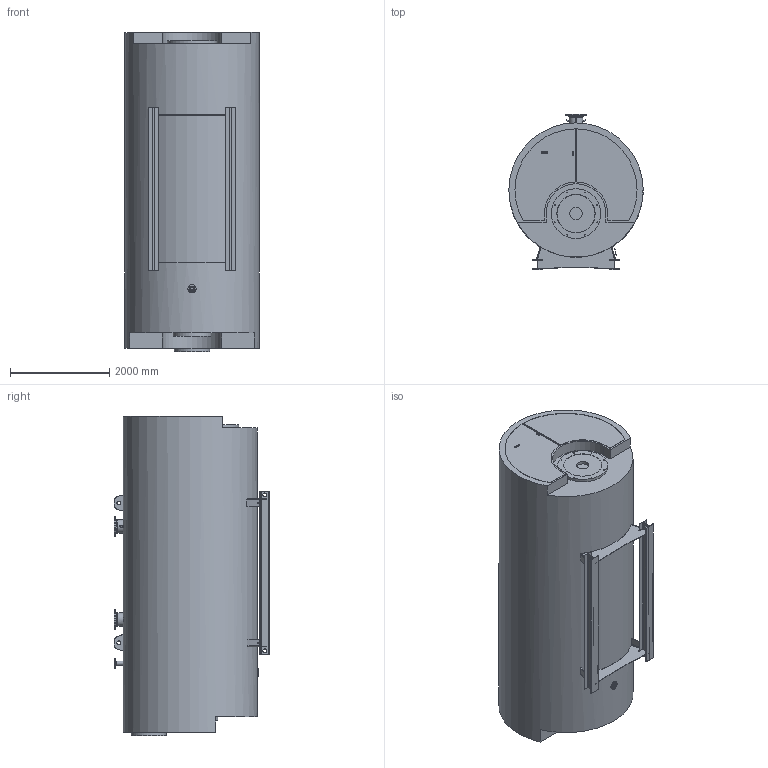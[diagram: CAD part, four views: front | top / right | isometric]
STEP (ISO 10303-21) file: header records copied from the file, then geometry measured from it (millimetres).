
FILE_DESCRIPTION(('TFLEX Exchange Step'),'2;1');
FILE_NAME('M62D028_7550663_H001.stp', '2024-08-09T13:50:49+03:00',('kort'),('Unknown organisation'),'TFLEX Exchange 2024.2','T-FLEX CAD','Unknown authorisation');
FILE_SCHEMA( ('AP242_MANAGED_MODEL_BASED_3D_ENGINEERING_MIM_LF {1 0 10303 442 1 1 4 }') );
Length unit declared in the file: millimetre
Products named in the file (1): 7550663_Grundkessel M62D028_H001
Bounding box: 2703.78 x 3130 x 6434.2 mm (x, y, z)
Volume: 35443696314.4 mm3; surface area: 77610579.6 mm2
Topology: 36 solids, 36 shells, 606 faces, 1594 edges, 1104 vertices
Faces by surface type: plane 343, cylinder 163, bspline 78, torus 14, cone 8
Full cylindrical faces by diameter (mm): 2.2 x4, 3.2 x4, 3.3 x4, 4 x4, 6.5 x4, 13 x4, 14 x8, 18 x16, 18.63 x2, 26 x24, 26.9 x2, 28.9 x2, 54.5 x2, 78.9 x1, 80 x6, 82.5 x1, 88.9 x1, 102 x2, 138 x1, 141 x1, 165 x2, 200 x1, 250 x1, 257 x2, 260.4 x2, 273 x2, 320 x2, 405 x2, 760 x1, 1000 x1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
Entity records: 27233 total; most frequent: CARTESIAN_POINT 11562, ORIENTED_EDGE 3188, DIRECTION 2950, EDGE_CURVE 1594, VERTEX_POINT 1104, AXIS2_PLACEMENT_3D 1013, VECTOR 924, LINE 924
